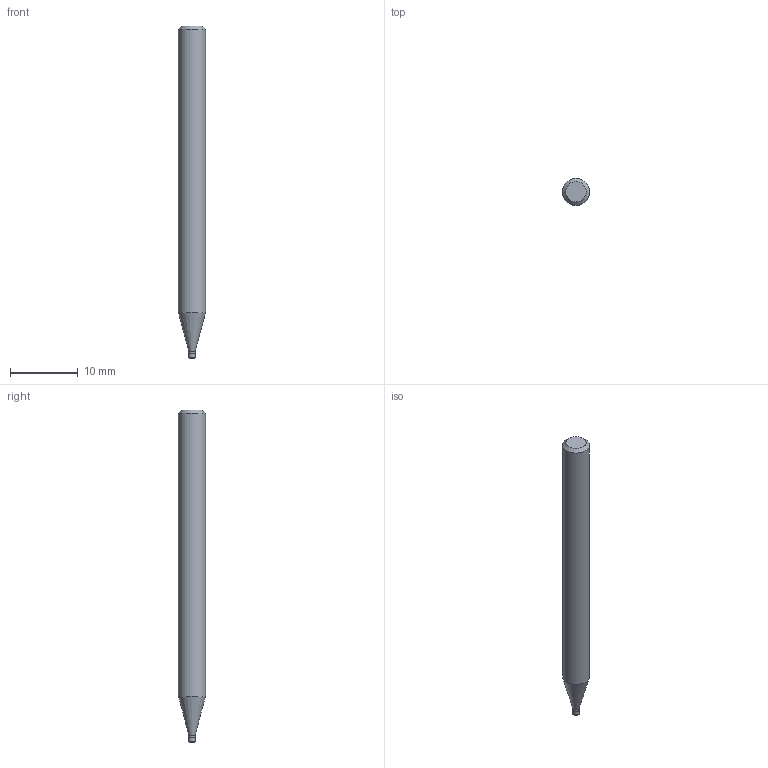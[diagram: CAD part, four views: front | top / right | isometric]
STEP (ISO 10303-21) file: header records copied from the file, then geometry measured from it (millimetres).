
FILE_DESCRIPTION((''),'2;1');
FILE_NAME('C:\Users\nsx150\AppData\Local\Temp\Mastercam 2021\LJSIDMOTM8\TEMP.step','2021-08-03T13:50:06',(''),(''),'STEP Write','Mastercam 2021 ... CNC Software, Inc.','');
FILE_SCHEMA(('AUTOMOTIVE_DESIGN'));
Length unit declared in the file: millimetre
Products named in the file (1): None
Bounding box: 4 x 4 x 49 mm (x, y, z)
Volume: 561.8 mm3; surface area: 591.3 mm2
Topology: 2 solids, 2 shells, 10 faces, 14 edges, 8 vertices
Faces by surface type: plane 4, cylinder 3, cone 2, torus 1
Full cylindrical faces by diameter (mm): 0.95 x1, 1 x1, 4 x1
Entity records: 232 total; most frequent: DIRECTION 40, CARTESIAN_POINT 28, AXIS2_PLACEMENT_3D 20, ORIENTED_EDGE 16, EDGE_LOOP 16, STYLED_ITEM 13, ADVANCED_FACE 10, FACE_BOUND 10
